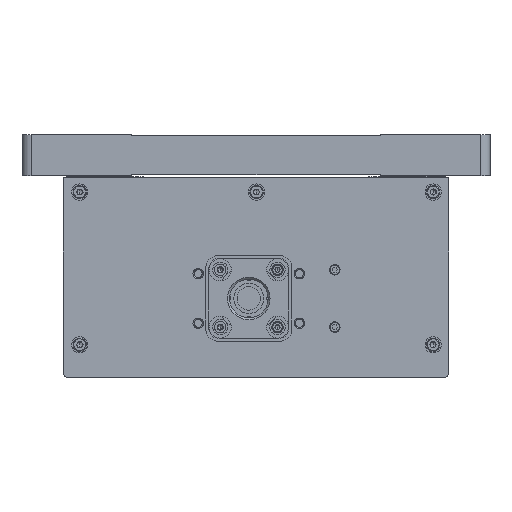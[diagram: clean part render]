
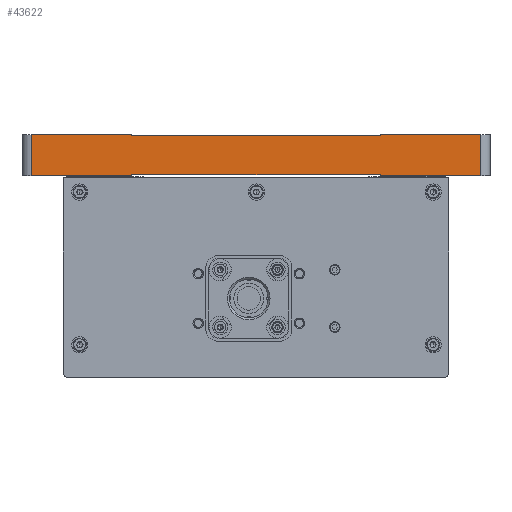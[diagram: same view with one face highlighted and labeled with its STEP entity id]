
A CAD part, left-side view. The second image highlights one B-rep face of the part: STEP entity #43622.
In plain terms, the highlighted planar face has unit normal (-1, 0, 0).
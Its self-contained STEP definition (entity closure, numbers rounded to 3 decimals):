
#603 = DIRECTION ( 'NONE',  ( 0., 0., -1. ) ) ;
#1715 = EDGE_CURVE ( 'NONE', #60495, #71168, #75967, .T. ) ;
#2285 = VERTEX_POINT ( 'NONE', #130489 ) ;
#2941 = VERTEX_POINT ( 'NONE', #17344 ) ;
#3176 = EDGE_CURVE ( 'NONE', #2285, #133917, #137504, .T. ) ;
#4625 = CARTESIAN_POINT ( 'NONE',  ( -239.561, 78.258, 526.107 ) ) ;
#6455 = VECTOR ( 'NONE', #48134, 1000. ) ;
#6645 = VERTEX_POINT ( 'NONE', #53009 ) ;
#7435 = DIRECTION ( 'NONE',  ( 0., 0., 1. ) ) ;
#8108 = VERTEX_POINT ( 'NONE', #31111 ) ;
#8943 = VECTOR ( 'NONE', #45722, 1000. ) ;
#11795 = DIRECTION ( 'NONE',  ( 0., 0., 1. ) ) ;
#14733 = DIRECTION ( 'NONE',  ( 0., -1., 0. ) ) ;
#15226 = VECTOR ( 'NONE', #11795, 1000. ) ;
#16078 = CARTESIAN_POINT ( 'NONE',  ( -239.561, 20.758, 526.607 ) ) ;
#16538 = ORIENTED_EDGE ( 'NONE', *, *, #75706, .T. ) ;
#16625 = EDGE_LOOP ( 'NONE', ( #86393, #100146, #93375, #52000, #108651, #114123, #110275, #90560, #16538, #21149, #110399, #97445 ) ) ;
#16781 = CARTESIAN_POINT ( 'NONE',  ( -239.561, 78.258, 547.607 ) ) ;
#17344 = CARTESIAN_POINT ( 'NONE',  ( -239.561, 73.258, 526.107 ) ) ;
#20200 = CARTESIAN_POINT ( 'NONE',  ( -239.561, -161.742, 547.607 ) ) ;
#21060 = CARTESIAN_POINT ( 'NONE',  ( -239.561, -109.242, 547.107 ) ) ;
#21149 = ORIENTED_EDGE ( 'NONE', *, *, #37104, .T. ) ;
#22088 = CARTESIAN_POINT ( 'NONE',  ( -239.561, 20.758, 526.107 ) ) ;
#22838 = CARTESIAN_POINT ( 'NONE',  ( -239.561, -109.242, 547.107 ) ) ;
#24364 = LINE ( 'NONE', #54371, #37778 ) ;
#25219 = EDGE_CURVE ( 'NONE', #2941, #102326, #30997, .T. ) ;
#28514 = VERTEX_POINT ( 'NONE', #40822 ) ;
#29799 = LINE ( 'NONE', #37862, #6455 ) ;
#29802 = VECTOR ( 'NONE', #122645, 1000. ) ;
#30997 = LINE ( 'NONE', #123247, #132756 ) ;
#31111 = CARTESIAN_POINT ( 'NONE',  ( -239.561, 20.758, 547.607 ) ) ;
#36347 = CARTESIAN_POINT ( 'NONE',  ( -239.561, 78.258, 547.607 ) ) ;
#37104 = EDGE_CURVE ( 'NONE', #28514, #131357, #24364, .T. ) ;
#37778 = VECTOR ( 'NONE', #76190, 1000. ) ;
#37862 = CARTESIAN_POINT ( 'NONE',  ( -239.561, 73.258, 547.607 ) ) ;
#40016 = AXIS2_PLACEMENT_3D ( 'NONE', #16781, #91407, #7435 ) ;
#40822 = CARTESIAN_POINT ( 'NONE',  ( -239.561, -161.742, 526.107 ) ) ;
#43622 = ADVANCED_FACE ( 'NONE', ( #137625 ), #70911, .F. ) ;
#45722 = DIRECTION ( 'NONE',  ( 0., 1., 0. ) ) ;
#47714 = DIRECTION ( 'NONE',  ( 0., -1., 0. ) ) ;
#48134 = DIRECTION ( 'NONE',  ( 0., 0., -1. ) ) ;
#48481 = DIRECTION ( 'NONE',  ( 0., -1., 0. ) ) ;
#48728 = VECTOR ( 'NONE', #603, 1000. ) ;
#49705 = VECTOR ( 'NONE', #103073, 1000. ) ;
#51478 = VECTOR ( 'NONE', #69179, 1000. ) ;
#52000 = ORIENTED_EDGE ( 'NONE', *, *, #117646, .T. ) ;
#53009 = CARTESIAN_POINT ( 'NONE',  ( -239.561, -109.242, 526.107 ) ) ;
#53403 = VECTOR ( 'NONE', #48481, 1000. ) ;
#54371 = CARTESIAN_POINT ( 'NONE',  ( -239.561, -161.742, 547.607 ) ) ;
#57718 = CARTESIAN_POINT ( 'NONE',  ( -239.561, 78.258, 547.607 ) ) ;
#60495 = VERTEX_POINT ( 'NONE', #21060 ) ;
#61476 = CARTESIAN_POINT ( 'NONE',  ( -239.561, 20.758, 547.107 ) ) ;
#65049 = CARTESIAN_POINT ( 'NONE',  ( -239.561, -109.242, 526.607 ) ) ;
#65515 = CARTESIAN_POINT ( 'NONE',  ( -239.561, 20.758, 547.107 ) ) ;
#69179 = DIRECTION ( 'NONE',  ( 0., 0., -1. ) ) ;
#70408 = LINE ( 'NONE', #57718, #127203 ) ;
#70911 = PLANE ( 'NONE',  #40016 ) ;
#71168 = VERTEX_POINT ( 'NONE', #131128 ) ;
#75706 = EDGE_CURVE ( 'NONE', #6645, #28514, #126908, .T. ) ;
#75967 = LINE ( 'NONE', #22838, #96075 ) ;
#76190 = DIRECTION ( 'NONE',  ( 0., 0., 1. ) ) ;
#77033 = LINE ( 'NONE', #65049, #48728 ) ;
#78050 = LINE ( 'NONE', #92311, #49705 ) ;
#81626 = EDGE_CURVE ( 'NONE', #90527, #8108, #70408, .T. ) ;
#82002 = EDGE_CURVE ( 'NONE', #2285, #6645, #77033, .T. ) ;
#82021 = EDGE_CURVE ( 'NONE', #115044, #8108, #97006, .T. ) ;
#86393 = ORIENTED_EDGE ( 'NONE', *, *, #103926, .F. ) ;
#87208 = DIRECTION ( 'NONE',  ( 0., 0., 1. ) ) ;
#88588 = CARTESIAN_POINT ( 'NONE',  ( -239.561, -109.242, 526.607 ) ) ;
#90527 = VERTEX_POINT ( 'NONE', #118077 ) ;
#90560 = ORIENTED_EDGE ( 'NONE', *, *, #82002, .T. ) ;
#91407 = DIRECTION ( 'NONE',  ( 1., 0., 0. ) ) ;
#92311 = CARTESIAN_POINT ( 'NONE',  ( -239.561, 20.758, 547.107 ) ) ;
#93375 = ORIENTED_EDGE ( 'NONE', *, *, #81626, .F. ) ;
#96075 = VECTOR ( 'NONE', #87208, 1000. ) ;
#96175 = EDGE_CURVE ( 'NONE', #133917, #102326, #111538, .T. ) ;
#97006 = LINE ( 'NONE', #65515, #15226 ) ;
#97445 = ORIENTED_EDGE ( 'NONE', *, *, #1715, .F. ) ;
#100146 = ORIENTED_EDGE ( 'NONE', *, *, #82021, .T. ) ;
#102326 = VERTEX_POINT ( 'NONE', #22088 ) ;
#103073 = DIRECTION ( 'NONE',  ( 0., -1., 0. ) ) ;
#103926 = EDGE_CURVE ( 'NONE', #115044, #60495, #78050, .T. ) ;
#108651 = ORIENTED_EDGE ( 'NONE', *, *, #25219, .T. ) ;
#110275 = ORIENTED_EDGE ( 'NONE', *, *, #3176, .F. ) ;
#110399 = ORIENTED_EDGE ( 'NONE', *, *, #133357, .F. ) ;
#111538 = LINE ( 'NONE', #123253, #51478 ) ;
#114123 = ORIENTED_EDGE ( 'NONE', *, *, #96175, .F. ) ;
#115044 = VERTEX_POINT ( 'NONE', #61476 ) ;
#117646 = EDGE_CURVE ( 'NONE', #90527, #2941, #29799, .T. ) ;
#118077 = CARTESIAN_POINT ( 'NONE',  ( -239.561, 73.258, 547.607 ) ) ;
#122645 = DIRECTION ( 'NONE',  ( 0., -1., 0. ) ) ;
#123247 = CARTESIAN_POINT ( 'NONE',  ( -239.561, 78.258, 526.107 ) ) ;
#123253 = CARTESIAN_POINT ( 'NONE',  ( -239.561, 20.758, 526.607 ) ) ;
#126607 = LINE ( 'NONE', #36347, #29802 ) ;
#126908 = LINE ( 'NONE', #4625, #53403 ) ;
#127203 = VECTOR ( 'NONE', #14733, 1000. ) ;
#130489 = CARTESIAN_POINT ( 'NONE',  ( -239.561, -109.242, 526.607 ) ) ;
#131128 = CARTESIAN_POINT ( 'NONE',  ( -239.561, -109.242, 547.607 ) ) ;
#131357 = VERTEX_POINT ( 'NONE', #20200 ) ;
#132756 = VECTOR ( 'NONE', #47714, 1000. ) ;
#133357 = EDGE_CURVE ( 'NONE', #71168, #131357, #126607, .T. ) ;
#133917 = VERTEX_POINT ( 'NONE', #16078 ) ;
#137504 = LINE ( 'NONE', #88588, #8943 ) ;
#137625 = FACE_OUTER_BOUND ( 'NONE', #16625, .T. ) ;
